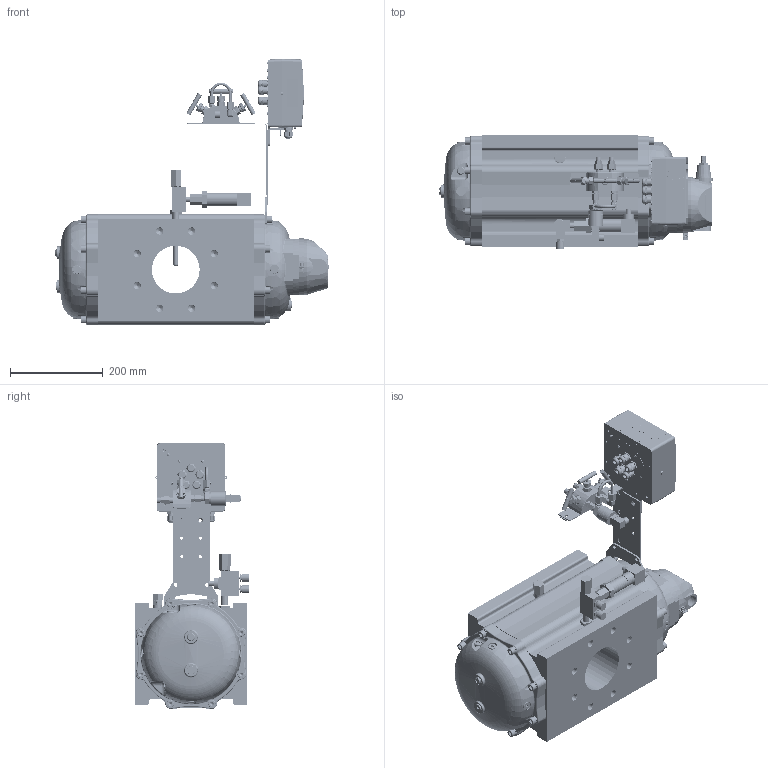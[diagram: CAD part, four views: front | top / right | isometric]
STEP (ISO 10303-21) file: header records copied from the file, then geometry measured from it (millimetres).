
FILE_DESCRIPTION(('STEP AP242'), '1');
FILE_NAME('ÝÐ-245-G250 áåç èñòîðèè', '', ('UNSPECIFIED'), ('UNSPECIFIED'), 'C3D Converter', 'C3D Toolkit', '');
FILE_SCHEMA(('AP242_MANAGED_MODEL_BASED_3D_ENGINEERING_MIM_LF { 1 0 10303 442 1 1 4 }'));
Length unit declared in the file: millimetre
Bounding box: 590 x 244.92 x 573.39 mm (x, y, z)
Volume: 23145661.2 mm3; surface area: 1529828.6 mm2
Topology: 166 solids, 168 shells, 33468 faces, 90767 edges, 59941 vertices
Faces by surface type: plane 15500, extrusion 11492, cylinder 4359, cone 802, bspline 749, torus 489, sphere 77
Full cylindrical faces by diameter (mm): 1.5 x1, 1.95 x3, 2 x12, 2.459 x22, 2.5 x4, 2.791 x2, 2.9 x4, 3 x30, 3.2 x13, 3.242 x12, 3.3 x6, 3.45 x7, 3.5 x16, 4 x22, 4.1 x8, 4.134 x1, 4.2 x12, 4.4 x1, 4.917 x3, 5 x22, 5.2 x4, 5.5 x20, 5.6 x20, 6 x15, 6.2 x2, 6.4 x6, 6.5 x8, 7 x20, 8 x22, 8.376 x16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
Entity records: 1444797 total; most frequent: CARTESIAN_POINT 403144, ORIENTED_EDGE 178294, DIRECTION 127701, EDGE_CURVE 89147, VECTOR 63313, VERTEX_POINT 59858, LINE 51821, EDGE_LOOP 37694
